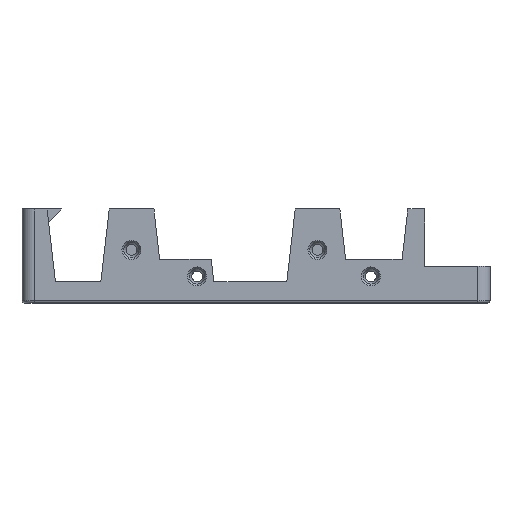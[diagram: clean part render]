
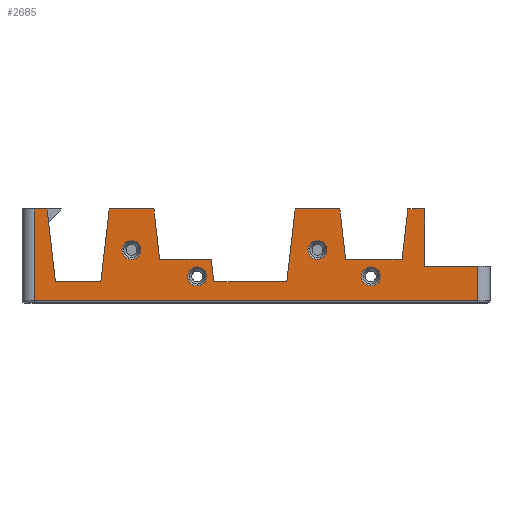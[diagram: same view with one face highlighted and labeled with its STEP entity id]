
A CAD part, front view. The second image highlights one B-rep face of the part: STEP entity #2685.
In plain terms, the highlighted planar face has unit normal (0, -1, 0).
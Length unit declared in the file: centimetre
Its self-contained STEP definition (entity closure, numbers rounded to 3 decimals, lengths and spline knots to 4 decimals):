
#171=FACE_BOUND($,#649,.T.);
#172=FACE_BOUND($,#650,.T.);
#173=FACE_BOUND($,#651,.T.);
#174=FACE_BOUND($,#652,.T.);
#175=FACE_BOUND($,#653,.T.);
#210=CIRCLE($,#2766,0.227);
#213=CIRCLE($,#2771,0.227);
#216=CIRCLE($,#2776,0.227);
#219=CIRCLE($,#2781,0.227);
#649=EDGE_LOOP($,(#2241));
#650=EDGE_LOOP($,(#2242));
#651=EDGE_LOOP($,(#2243));
#652=EDGE_LOOP($,(#2244));
#653=EDGE_LOOP($,(#2245,#2246,#2247,#2248,#2249,#2250,#2251,#2252,#2253,
#2254,#2255,#2256,#2257,#2258,#2259,#2260,#2261,#2262,#2263,#2264));
#727=LINE($,#3991,#953);
#729=LINE($,#3997,#955);
#737=LINE($,#4026,#963);
#738=LINE($,#4030,#964);
#741=LINE($,#4036,#967);
#744=LINE($,#4042,#970);
#747=LINE($,#4048,#973);
#750=LINE($,#4055,#976);
#754=LINE($,#4063,#980);
#757=LINE($,#4068,#983);
#759=LINE($,#4072,#985);
#762=LINE($,#4077,#988);
#774=LINE($,#4170,#1000);
#779=LINE($,#4183,#1005);
#783=LINE($,#4206,#1009);
#853=LINE($,#4542,#1079);
#854=LINE($,#4544,#1080);
#855=LINE($,#4546,#1081);
#856=LINE($,#4547,#1082);
#857=LINE($,#4548,#1083);
#953=VECTOR($,#3197,1.07);
#955=VECTOR($,#3201,1.07);
#963=VECTOR($,#3215,1.2693);
#964=VECTOR($,#3220,1.7515);
#967=VECTOR($,#3225,1.2079);
#970=VECTOR($,#3230,1.3508);
#973=VECTOR($,#3235,1.2079);
#976=VECTOR($,#3240,0.5436);
#980=VECTOR($,#3246,1.2337);
#983=VECTOR($,#3251,1.2079);
#985=VECTOR($,#3255,1.7463);
#988=VECTOR($,#3260,1.7515);
#1000=VECTOR($,#3290,1.365);
#1005=VECTOR($,#3305,0.825);
#1009=VECTOR($,#3343,0.4);
#1079=VECTOR($,#3629,1.7515);
#1080=VECTOR($,#3630,0.3);
#1081=VECTOR($,#3631,2.19);
#1082=VECTOR($,#3632,10.603);
#1083=VECTOR($,#3633,1.087);
#1198=VERTEX_POINT($,#3924);
#1201=VERTEX_POINT($,#3932);
#1204=VERTEX_POINT($,#3940);
#1207=VERTEX_POINT($,#3948);
#1218=VERTEX_POINT($,#3980);
#1223=VERTEX_POINT($,#3989);
#1225=VERTEX_POINT($,#3994);
#1226=VERTEX_POINT($,#3996);
#1233=VERTEX_POINT($,#4023);
#1234=VERTEX_POINT($,#4025);
#1235=VERTEX_POINT($,#4029);
#1237=VERTEX_POINT($,#4035);
#1239=VERTEX_POINT($,#4041);
#1241=VERTEX_POINT($,#4047);
#1243=VERTEX_POINT($,#4053);
#1244=VERTEX_POINT($,#4054);
#1247=VERTEX_POINT($,#4062);
#1249=VERTEX_POINT($,#4071);
#1262=VERTEX_POINT($,#4168);
#1265=VERTEX_POINT($,#4179);
#1354=VERTEX_POINT($,#4540);
#1355=VERTEX_POINT($,#4541);
#1356=VERTEX_POINT($,#4543);
#1357=VERTEX_POINT($,#4545);
#1458=EDGE_CURVE($,#1198,#1198,#210,.T.);
#1461=EDGE_CURVE($,#1201,#1201,#213,.T.);
#1464=EDGE_CURVE($,#1204,#1204,#216,.T.);
#1467=EDGE_CURVE($,#1207,#1207,#219,.T.);
#1483=EDGE_CURVE($,#1223,#1218,#727,.F.);
#1485=EDGE_CURVE($,#1225,#1226,#729,.F.);
#1495=EDGE_CURVE($,#1233,#1234,#737,.F.);
#1497=EDGE_CURVE($,#1225,#1235,#738,.T.);
#1500=EDGE_CURVE($,#1237,#1218,#741,.T.);
#1503=EDGE_CURVE($,#1239,#1237,#744,.T.);
#1506=EDGE_CURVE($,#1241,#1239,#747,.T.);
#1509=EDGE_CURVE($,#1243,#1244,#750,.T.);
#1513=EDGE_CURVE($,#1244,#1247,#754,.T.);
#1516=EDGE_CURVE($,#1247,#1226,#757,.T.);
#1518=EDGE_CURVE($,#1249,#1243,#759,.T.);
#1521=EDGE_CURVE($,#1223,#1249,#762,.T.);
#1541=EDGE_CURVE($,#1262,#1233,#774,.T.);
#1548=EDGE_CURVE($,#1234,#1265,#779,.T.);
#1556=EDGE_CURVE($,#1241,#1262,#783,.F.);
#1676=EDGE_CURVE($,#1354,#1355,#853,.T.);
#1677=EDGE_CURVE($,#1356,#1355,#854,.F.);
#1678=EDGE_CURVE($,#1357,#1356,#855,.T.);
#1679=EDGE_CURVE($,#1265,#1357,#856,.T.);
#1680=EDGE_CURVE($,#1235,#1354,#857,.T.);
#2241=ORIENTED_EDGE($,*,*,#1467,.F.);
#2242=ORIENTED_EDGE($,*,*,#1461,.F.);
#2243=ORIENTED_EDGE($,*,*,#1458,.F.);
#2244=ORIENTED_EDGE($,*,*,#1464,.F.);
#2245=ORIENTED_EDGE($,*,*,#1676,.T.);
#2246=ORIENTED_EDGE($,*,*,#1677,.F.);
#2247=ORIENTED_EDGE($,*,*,#1678,.F.);
#2248=ORIENTED_EDGE($,*,*,#1679,.F.);
#2249=ORIENTED_EDGE($,*,*,#1548,.F.);
#2250=ORIENTED_EDGE($,*,*,#1495,.F.);
#2251=ORIENTED_EDGE($,*,*,#1541,.F.);
#2252=ORIENTED_EDGE($,*,*,#1556,.F.);
#2253=ORIENTED_EDGE($,*,*,#1506,.T.);
#2254=ORIENTED_EDGE($,*,*,#1503,.T.);
#2255=ORIENTED_EDGE($,*,*,#1500,.T.);
#2256=ORIENTED_EDGE($,*,*,#1483,.F.);
#2257=ORIENTED_EDGE($,*,*,#1521,.T.);
#2258=ORIENTED_EDGE($,*,*,#1518,.T.);
#2259=ORIENTED_EDGE($,*,*,#1509,.T.);
#2260=ORIENTED_EDGE($,*,*,#1513,.T.);
#2261=ORIENTED_EDGE($,*,*,#1516,.T.);
#2262=ORIENTED_EDGE($,*,*,#1485,.F.);
#2263=ORIENTED_EDGE($,*,*,#1497,.T.);
#2264=ORIENTED_EDGE($,*,*,#1680,.T.);
#2534=PLANE($,#2955);
#2685=ADVANCED_FACE($,(#171,#172,#173,#174,#175),#2534,.F.);
#2766=AXIS2_PLACEMENT_3D($,#3925,#3119,#3120);
#2771=AXIS2_PLACEMENT_3D($,#3933,#3129,#3130);
#2776=AXIS2_PLACEMENT_3D($,#3941,#3139,#3140);
#2781=AXIS2_PLACEMENT_3D($,#3949,#3149,#3150);
#2955=AXIS2_PLACEMENT_3D($,#4539,#3627,#3628);
#3119=DIRECTION('center_axis',(0.,-1.,0.));
#3120=DIRECTION('ref_axis',(1.,0.,0.));
#3129=DIRECTION('center_axis',(0.,-1.,0.));
#3130=DIRECTION('ref_axis',(1.,0.,0.));
#3139=DIRECTION('center_axis',(0.,-1.,0.));
#3140=DIRECTION('ref_axis',(1.,0.,0.));
#3149=DIRECTION('center_axis',(0.,-1.,0.));
#3150=DIRECTION('ref_axis',(1.,0.,0.));
#3197=DIRECTION($,(-1.,0.,0.));
#3201=DIRECTION($,(-1.,0.,0.));
#3215=DIRECTION($,(-1.,0.,0.));
#3220=DIRECTION($,(-0.114,0.,-0.993));
#3225=DIRECTION($,(-0.114,0.,0.993));
#3230=DIRECTION($,(-1.,0.,0.));
#3235=DIRECTION($,(-0.114,0.,-0.993));
#3240=DIRECTION($,(-0.114,0.,0.993));
#3246=DIRECTION($,(-1.,0.,0.));
#3251=DIRECTION($,(-0.114,0.,0.993));
#3255=DIRECTION($,(-1.,0.,0.));
#3260=DIRECTION($,(-0.114,0.,-0.993));
#3290=DIRECTION($,(0.,0.,-1.));
#3305=DIRECTION($,(0.,0.,-1.));
#3343=DIRECTION($,(-1.,0.,0.));
#3627=DIRECTION('center_axis',(0.,1.,0.));
#3628=DIRECTION('ref_axis',(0.,0.,1.));
#3629=DIRECTION($,(-0.114,0.,0.993));
#3630=DIRECTION($,(-1.,0.,0.));
#3631=DIRECTION($,(0.,0.,1.));
#3632=DIRECTION($,(-1.,0.,0.));
#3633=DIRECTION($,(-1.,0.,0.));
#3924=CARTESIAN_POINT('',(43.037,-75.053,0.3505));
#3925=CARTESIAN_POINT('Origin',(43.264,-75.053,0.3505));
#3932=CARTESIAN_POINT('',(44.607,-75.053,-0.2845));
#3933=CARTESIAN_POINT('Origin',(44.834,-75.053,-0.2845));
#3940=CARTESIAN_POINT('',(47.487,-75.053,0.3505));
#3941=CARTESIAN_POINT('Origin',(47.714,-75.053,0.3505));
#3948=CARTESIAN_POINT('',(48.767,-75.053,-0.2845));
#3949=CARTESIAN_POINT('Origin',(48.994,-75.053,-0.2845));
#3980=CARTESIAN_POINT('',(48.2511,-75.053,1.3305));
#3989=CARTESIAN_POINT('',(47.181,-75.053,1.3305));
#3991=CARTESIAN_POINT($,(44.494,-75.053,1.3305));
#3994=CARTESIAN_POINT('',(42.731,-75.053,1.3305));
#3996=CARTESIAN_POINT('',(43.801,-75.053,1.3305));
#3997=CARTESIAN_POINT($,(44.494,-75.053,1.3305));
#4023=CARTESIAN_POINT('',(50.2777,-75.053,-0.0345));
#4025=CARTESIAN_POINT('',(51.547,-75.053,-0.0345));
#4026=CARTESIAN_POINT($,(47.7774,-75.053,-0.0345));
#4029=CARTESIAN_POINT('',(42.531,-75.053,-0.4095));
#4030=CARTESIAN_POINT($,(42.6168,-75.053,0.3371));
#4035=CARTESIAN_POINT('',(48.389,-75.053,0.1305));
#4036=CARTESIAN_POINT($,(48.3523,-75.053,0.4503));
#4041=CARTESIAN_POINT('',(49.7398,-75.053,0.1305));
#4042=CARTESIAN_POINT($,(46.8292,-75.053,0.1305));
#4047=CARTESIAN_POINT('',(49.8777,-75.053,1.3305));
#4048=CARTESIAN_POINT($,(49.7169,-75.053,-0.0682));
#4053=CARTESIAN_POINT('',(45.2347,-75.053,-0.4095));
#4054=CARTESIAN_POINT('',(45.1726,-75.053,0.1305));
#4055=CARTESIAN_POINT($,(45.2005,-75.053,-0.1122));
#4062=CARTESIAN_POINT('',(43.939,-75.053,0.1305));
#4063=CARTESIAN_POINT($,(44.664,-75.053,0.1305));
#4068=CARTESIAN_POINT($,(43.9312,-75.053,0.1978));
#4071=CARTESIAN_POINT('',(46.981,-75.053,-0.4095));
#4072=CARTESIAN_POINT($,(44.9925,-75.053,-0.4095));
#4077=CARTESIAN_POINT($,(47.0378,-75.053,0.0847));
#4168=CARTESIAN_POINT('',(50.2777,-75.053,1.3305));
#4170=CARTESIAN_POINT($,(50.2777,-75.053,0.088));
#4179=CARTESIAN_POINT('',(51.547,-75.053,-0.8595));
#4183=CARTESIAN_POINT($,(51.547,-75.053,-0.3798));
#4206=CARTESIAN_POINT($,(44.494,-75.053,1.3305));
#4539=CARTESIAN_POINT('Origin',(47.994,-75.053,-0.0295));
#4540=CARTESIAN_POINT('',(41.444,-75.053,-0.4095));
#4541=CARTESIAN_POINT('',(41.244,-75.053,1.3305));
#4542=CARTESIAN_POINT($,(41.4137,-75.053,-0.1457));
#4543=CARTESIAN_POINT('',(40.944,-75.053,1.3305));
#4544=CARTESIAN_POINT($,(47.994,-75.053,1.3305));
#4545=CARTESIAN_POINT('',(40.944,-75.053,-0.8595));
#4546=CARTESIAN_POINT($,(40.944,-75.053,-0.0295));
#4547=CARTESIAN_POINT($,(47.994,-75.053,-0.8595));
#4548=CARTESIAN_POINT($,(45.0233,-75.053,-0.4095));
